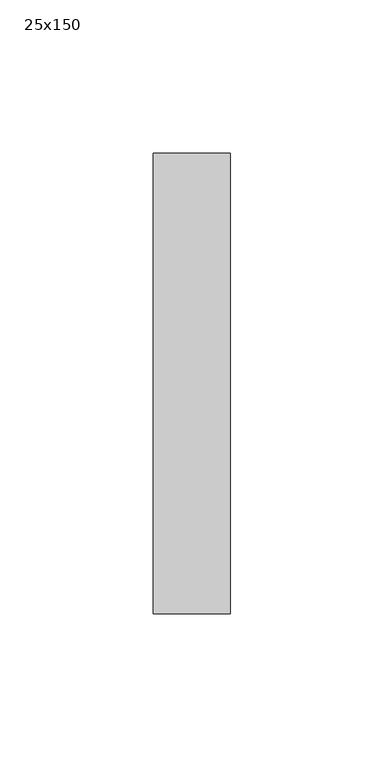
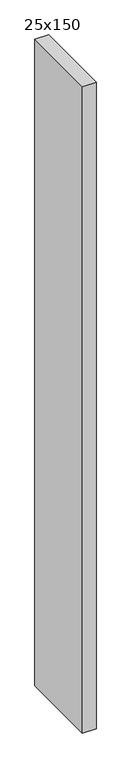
"""IFC4 building model written with IfcOpenShell, lengths in millimetres: member geometry, 長方形のマリオン : 25x150."""

from ifc_helpers import new_model, si_unit, frame, origin, place, context, project, spatial, polyline, outline, extrude, source, transform, mapped, element, save


def member_25x150_bae5e528(model_context):
    return source(origin(), model_context, "Body", "SweptSolid", [
        extrude(outline(polyline([(0.0, 75.0), (0.0, -75.0), (-25.0, -75.0), (-25.0, 75.0), (0.0, 75.0)])), frame((0.0, 0.0, -1246.861911), z_axis=(0.0, 0.0, 1.0), x_axis=(1.0, 0.0, 0.0)), (0.0, 0.0, 1.0), 1246.861911),
    ])


if __name__ == "__main__":
    model = new_model("IFC4")
    model_context = context("Model", 3, world=origin())
    ifc_project = project(units=[si_unit("LENGTHUNIT", "METRE", prefix="MILLI")], contexts=[model_context])
    site = spatial("IfcSite", under=ifc_project)
    building = spatial("IfcBuilding", under=site)
    placement = place(None, origin())
    member_25x150_shape = member_25x150_bae5e528(model_context)
    element("IfcMember", 1, ObjectType="長方形のマリオン : 25x150", at=placement, inside=building, context=model_context, shape_type="MappedRepresentation", body=[
        mapped(member_25x150_shape, transform((0.0, 0.0, 0.0), x_axis=(1.0, 0.0, 0.0), y_axis=(0.0, 1.0, 0.0), z_axis=(0.0, 0.0, 1.0))),
    ])
    save(model, "model.ifc")
